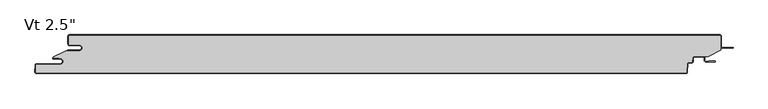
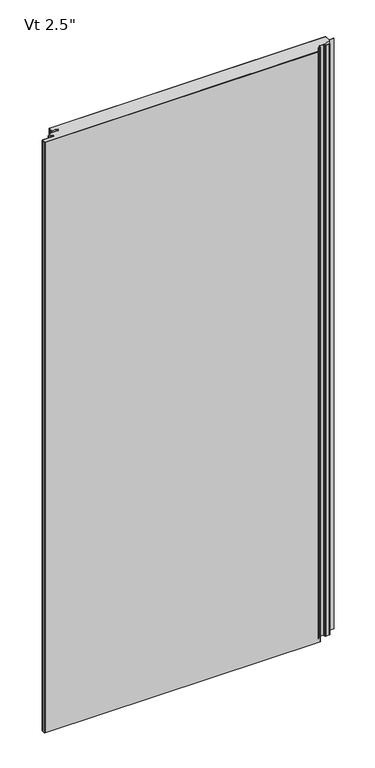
"""IFC4 building model written with IfcOpenShell, lengths in millimetres: plate geometry."""

import ifcopenshell
import ifcopenshell.guid

model = None  # the IFC model being written
_history = None  # IfcOwnerHistory: only IFC2X3 demands one
_inside = {}  # id of a spatial element -> (the spatial element, [elements in it])
_under = {}  # id of a project, library or spatial element -> (it, [spatial elements below it])
_declared = {}  # id of a project -> (the project, [libraries it declares])
_typed = {}  # id of a type object -> (the type object, [elements of that type])
_made_of = {}  # id of a material, layer set ... -> (it, [elements and type objects made of it])


def new_model(schema):
    """Start an empty IFC model of exactly this schema.

    Asked for "IFC4X3", IfcOpenShell would pick the latest addendum, in which some entities
    have other attributes; the version numbers below select the first issue.
    IFC2X3 requires an IfcOwnerHistory on every rooted entity: one is made here for all.
    """
    global model, _history
    if schema == "IFC4X3":
        model = ifcopenshell.file(schema_version=(4, 3, 0, 0))
    else:
        model = ifcopenshell.file(schema=schema)
    _inside.clear()
    _under.clear()
    _declared.clear()
    _typed.clear()
    _made_of.clear()
    _history = None
    if model.schema == "IFC2X3":
        org = make("IfcOrganization", Name="unknown")
        user = make(
            "IfcPersonAndOrganization",
            ThePerson=make("IfcPerson", FamilyName="unknown"),
            TheOrganization=org,
        )
        app = make(
            "IfcApplication",
            ApplicationDeveloper=org,
            Version="unknown",
            ApplicationFullName="unknown",
            ApplicationIdentifier="unknown",
        )
        _history = make(
            "IfcOwnerHistory",
            OwningUser=user,
            OwningApplication=app,
            ChangeAction="ADDED",
            CreationDate=0,
        )
    return model


def make(cls, **values):
    """One entity of the class cls with the attributes given. An attribute that is None is left unset."""
    return model.create_entity(
        cls, **{name: value for name, value in values.items() if value is not None}
    )


def rooted(cls, **values):
    """An entity with a GlobalId (a new one), such as an element, a storey or a relation."""
    return make(cls, GlobalId=ifcopenshell.guid.new(), OwnerHistory=_history, **values)


def si_unit(unit_type, name, prefix=None):
    """IfcSIUnit, for example si_unit("LENGTHUNIT", "METRE", prefix="MILLI")."""
    return make("IfcSIUnit", UnitType=unit_type, Prefix=prefix, Name=name)


def assignment(units):
    """IfcUnitAssignment: the units of a project."""
    return None if units is None else make("IfcUnitAssignment", Units=units)


def point(xyz):
    """IfcCartesianPoint."""
    return None if xyz is None else make("IfcCartesianPoint", Coordinates=xyz)


def direction(xyz):
    """IfcDirection."""
    return None if xyz is None else make("IfcDirection", DirectionRatios=xyz)


def frame(location, z_axis=None, x_axis=None):
    """IfcAxis2Placement3D, a coordinate frame: its origin and axes. An axis left out is left unset."""
    return make(
        "IfcAxis2Placement3D",
        Location=point(location),
        Axis=direction(z_axis),
        RefDirection=direction(x_axis),
    )


def frame_2d(location, x_axis=None):
    """IfcAxis2Placement2D, a coordinate frame in the plane: its origin and x axis."""
    return make(
        "IfcAxis2Placement2D", Location=point(location), RefDirection=direction(x_axis)
    )


def origin():
    """The frame at (0, 0, 0) with its axes left unset."""
    return frame((0.0, 0.0, 0.0))


def origin_with_axes():
    """The frame at (0, 0, 0) with the z axis (0, 0, 1) and the x axis (1, 0, 0) written out."""
    return frame((0.0, 0.0, 0.0), z_axis=(0.0, 0.0, 1.0), x_axis=(1.0, 0.0, 0.0))


def place(relative_to, where):
    """IfcLocalPlacement: puts the frame where relative to a parent placement (None: the world)."""
    return make(
        "IfcLocalPlacement", PlacementRelTo=relative_to, RelativePlacement=where
    )


def context(
    kind, dimensions, precision=None, world=None, true_north=None, identifier=None
):
    """IfcGeometricRepresentationContext, for example the 3D "Model" context."""
    return make(
        "IfcGeometricRepresentationContext",
        ContextIdentifier=identifier,
        ContextType=kind,
        CoordinateSpaceDimension=dimensions,
        Precision=precision,
        WorldCoordinateSystem=world,
        TrueNorth=true_north,
    )


def project(units=None, contexts=None):
    """IfcProject with its units and contexts."""
    return rooted(
        "IfcProject",
        Name="project",
        RepresentationContexts=contexts,
        UnitsInContext=assignment(units),
    )


def spatial(cls, under=None, at=None, **own):
    """A site, building, storey or space (cls), placed at a placement, below another one or the project."""
    s = rooted(cls, ObjectPlacement=at, **own)
    if under is not None:
        _under.setdefault(under.id(), (under, []))[1].append(s)
    return s


def polyline(points):
    """IfcPolyline through the points."""
    return make("IfcPolyline", Points=[point(p) for p in points])


def circle_curve(where, radius):
    """IfcCircle in the frame where."""
    return make("IfcCircle", Position=where, Radius=radius)


def ellipse_curve(where, semi_axis1, semi_axis2):
    """IfcEllipse in the frame where."""
    return make(
        "IfcEllipse", Position=where, SemiAxis1=semi_axis1, SemiAxis2=semi_axis2
    )


def trimmed(basis, trim1, trim2, sense, master):
    """IfcTrimmedCurve: the piece of a basis curve between two trims."""
    return make(
        "IfcTrimmedCurve",
        BasisCurve=basis,
        Trim1=trim1,
        Trim2=trim2,
        SenseAgreement=sense,
        MasterRepresentation=master,
    )


def segment(curve, same_sense, transition):
    """IfcCompositeCurveSegment."""
    return make(
        "IfcCompositeCurveSegment",
        Transition=transition,
        SameSense=same_sense,
        ParentCurve=curve,
    )


def composite_curve(segments, self_intersect=None):
    """IfcCompositeCurve: segments joined end to end."""
    return make("IfcCompositeCurve", Segments=segments, SelfIntersect=self_intersect)


def outline(outer, holes=None, kind="AREA"):
    """IfcArbitraryClosedProfileDef: a profile drawn as a closed curve; with holes, ...WithVoids."""
    if holes is None:
        return make("IfcArbitraryClosedProfileDef", ProfileType=kind, OuterCurve=outer)
    return make(
        "IfcArbitraryProfileDefWithVoids",
        ProfileType=kind,
        OuterCurve=outer,
        InnerCurves=holes,
    )


def extrude(swept, where, along, depth):
    """IfcExtrudedAreaSolid: the profile swept, set in the frame where, extruded along a direction by depth."""
    return make(
        "IfcExtrudedAreaSolid",
        SweptArea=swept,
        Position=where,
        ExtrudedDirection=direction(along),
        Depth=depth,
    )


def shape(context_of_items, identifier, shape_type, items):
    """IfcShapeRepresentation: the items that make up one representation, for example the "Body"."""
    return make(
        "IfcShapeRepresentation",
        ContextOfItems=context_of_items,
        RepresentationIdentifier=identifier,
        RepresentationType=shape_type,
        Items=items,
    )


def source(mapping_origin, context_of_items, identifier, shape_type, items):
    """IfcRepresentationMap: a shape defined once, which mapped items show again and again."""
    return make(
        "IfcRepresentationMap",
        MappingOrigin=mapping_origin,
        MappedRepresentation=shape(context_of_items, identifier, shape_type, items),
    )


def transform(
    local_origin,
    x_axis=None,
    y_axis=None,
    z_axis=None,
    scale=None,
    scale2=None,
    scale3=None,
    uniform=True,
):
    """IfcCartesianTransformationOperator3D, or its non-uniform kind. x_axis, y_axis, z_axis: its Axis1, 2, 3."""
    if uniform:
        return make(
            "IfcCartesianTransformationOperator3D",
            Axis1=direction(x_axis),
            Axis2=direction(y_axis),
            LocalOrigin=point(local_origin),
            Scale=scale,
            Axis3=direction(z_axis),
        )
    return make(
        "IfcCartesianTransformationOperator3DnonUniform",
        Axis1=direction(x_axis),
        Axis2=direction(y_axis),
        LocalOrigin=point(local_origin),
        Scale=scale,
        Axis3=direction(z_axis),
        Scale2=scale2,
        Scale3=scale3,
    )


def mapped(mapping_source, mapping_target):
    """IfcMappedItem: shows the shape of a source again, moved by a transform."""
    return make(
        "IfcMappedItem", MappingSource=mapping_source, MappingTarget=mapping_target
    )


def made_of(thing, what):
    """Note that an element or type object is made of a material, layer set ...; save() writes the relation."""
    if what is not None:
        _made_of.setdefault(what.id(), (what, []))[1].append(thing)
    return thing


def element(
    cls,
    number,
    at=None,
    inside=None,
    cuts=None,
    type_object=None,
    material=None,
    context=None,
    identifier="Body",
    shape_type=None,
    held_by="IfcProductDefinitionShape",
    body=None,
    shapes=None,
    **own,
):
    """One element of the class cls, such as IfcWall. Its Tag is "e" and its number.

    at: its placement. inside: the storey or other place that contains it. cuts: it is an
    opening in that element (IfcRelVoidsElement). A single representation is given by context,
    identifier, shape_type and body (its items); several are given by shapes. held_by: the class
    of the entity that holds the representations. save() writes the other relations.
    """
    e = rooted(cls, Tag="e%d" % number, ObjectPlacement=at, **own)
    if body is not None:
        shapes = [shape(context, identifier, shape_type, body)]
    if shapes is not None:
        e.Representation = make(held_by, Representations=shapes)
    if inside is not None:
        _inside.setdefault(inside.id(), (inside, []))[1].append(e)
    if cuts is not None:
        rooted(
            "IfcRelVoidsElement", RelatingBuildingElement=cuts, RelatedOpeningElement=e
        )
    if type_object is not None:
        _typed.setdefault(type_object.id(), (type_object, []))[1].append(e)
    return made_of(e, material)


def aggregate(whole, parts):
    """IfcRelAggregates: a whole, such as a stair, and the parts it consists of."""
    return rooted("IfcRelAggregates", RelatingObject=whole, RelatedObjects=parts)


def save(model, path):
    """Write the relations noted so far, then the file.

    IfcRelAggregates (storeys below a building ...), IfcRelContainedInSpatialStructure (elements
    in a storey), IfcRelDefinesByType, IfcRelAssociatesMaterial and IfcRelDeclares: one each for
    every whole, place, type object, material and project.
    """
    for whole, parts in _under.values():
        aggregate(whole, parts)
    for where, things in _inside.values():
        rooted(
            "IfcRelContainedInSpatialStructure",
            RelatedElements=things,
            RelatingStructure=where,
        )
    for kind, things in _typed.values():
        rooted("IfcRelDefinesByType", RelatedObjects=things, RelatingType=kind)
    for what, things in _made_of.values():
        rooted("IfcRelAssociatesMaterial", RelatedObjects=things, RelatingMaterial=what)
    for by, libraries in _declared.values():
        rooted("IfcRelDeclares", RelatingContext=by, RelatedDefinitions=libraries)
    model.write(path)


def plane_surface(at):
    """IfcPlane: the flat surface through the origin of the frame at, square to its z axis."""
    return make("IfcPlane", Position=at)


def cylinder_surface(at, radius):
    """IfcCylindricalSurface: all points at the distance radius from the z axis of the frame at."""
    return make("IfcCylindricalSurface", Position=at, Radius=radius)


def revolved_surface(curve, axis_point, axis_direction):
    """IfcSurfaceOfRevolution: the curve turned about the line through axis_point along axis_direction."""
    return make(
        "IfcSurfaceOfRevolution",
        SweptCurve=make("IfcArbitraryOpenProfileDef", ProfileType="CURVE", Curve=curve),
        AxisPosition=make("IfcAxis1Placement", Location=point(axis_point), Axis=direction(axis_direction)),
    )


def extruded_surface(curve, direction_of_extrusion, depth):
    """IfcSurfaceOfLinearExtrusion: the curve pushed along a direction by depth."""
    return make(
        "IfcSurfaceOfLinearExtrusion",
        SweptCurve=make("IfcArbitraryOpenProfileDef", ProfileType="CURVE", Curve=curve),
        ExtrudedDirection=direction(direction_of_extrusion),
        Depth=depth,
    )


def advanced_brep(points, edges, surfaces, faces):
    """IfcAdvancedBrep: a solid bounded by faces that lie on surfaces and meet in shared edges.

    An edge is (start, end): straight between two places in points (the first is 0);
    or (start, end, curve); or (start, end, curve, False) where it runs against its curve.
    A face is (place in surfaces, loops), or (place, loops, False) where it looks against
    its surface's normal. A loop lists edges by number (the first is 1), with a minus sign
    where the edge is run from its end to its start. The first loop is the outer one.
    """
    corners = [point(p) for p in points]
    vertices = [make("IfcVertexPoint", VertexGeometry=c) for c in corners]
    made = []
    for start, end, *more in edges:
        made.append(
            make(
                "IfcEdgeCurve",
                EdgeStart=vertices[start],
                EdgeEnd=vertices[end],
                EdgeGeometry=more[0] if more else make("IfcPolyline", Points=[corners[start], corners[end]]),
                SameSense=more[1] if len(more) > 1 else True,
            )
        )
    hull = []
    for where, loops, *sense in faces:
        bounds = []
        for j, loop in enumerate(loops):
            ring = [make("IfcOrientedEdge", EdgeElement=made[abs(k) - 1], Orientation=k > 0) for k in loop]
            bounds.append(
                make(
                    "IfcFaceOuterBound" if j == 0 else "IfcFaceBound",
                    Bound=make("IfcEdgeLoop", EdgeList=ring),
                    Orientation=True,
                )
            )
        hull.append(make("IfcAdvancedFace", Bounds=bounds, FaceSurface=surfaces[where], SameSense=sense[0] if sense else True))
    return make("IfcAdvancedBrep", Outer=make("IfcClosedShell", CfsFaces=hull))


def plate_c49927b6(model_context):
    return source(origin(), model_context, "Body", "SolidModel", [
        extrude(outline(composite_curve([segment(polyline([(-514.35625, -16.4625), (-530.23125, -16.4625)]), True, "CONTINUOUS"), segment(trimmed(circle_curve(frame_2d((-530.23125, -15.08125)), 1.38125), [point((-530.23125, -16.4625))], [point((-531.6125, -15.08125))], False, "CARTESIAN"), True, "CONTINUOUS"), segment(polyline([(-531.6125, -15.08125), (-531.6125, -2.38125)]), True, "CONTINUOUS"), segment(trimmed(circle_curve(frame_2d((-530.23125, -2.38125)), 1.38125), [point((-531.6125, -2.38125))], [point((-530.23125, -1.0))], False, "CARTESIAN"), True, "CONTINUOUS"), segment(polyline([(-530.23125, -1.0), (530.21875, -1.0)]), True, "CONTINUOUS"), segment(trimmed(circle_curve(frame_2d((530.21875, -2.38125)), 1.38125), [point((530.21875, -1.0))], [point((531.6, -2.38125))], False, "CARTESIAN"), True, "CONTINUOUS"), segment(polyline([(531.6, -2.38125), (531.6, -24.9057308), (510.7830434, -35.5125), (488.3415783, -35.5125)]), True, "CONTINUOUS"), segment(trimmed(circle_curve(frame_2d((488.3415783, -38.1)), 2.5875), [point((488.3415783, -35.5125))], [point((485.7576244, -37.9645807))], True, "CARTESIAN"), True, "CONTINUOUS"), segment(polyline([(485.7576244, -37.9645807), (485.4555481, -43.728539)]), True, "CONTINUOUS"), segment(trimmed(circle_curve(frame_2d((484.0761911, -43.65625)), 1.38125), [point((485.4555481, -43.728539))], [point((484.0761911, -45.0375))], False, "CARTESIAN"), True, "CONTINUOUS"), segment(polyline([(484.0761911, -45.0375), (479.4448847, -45.0375)]), True, "CONTINUOUS"), segment(trimmed(circle_curve(frame_2d((479.4448847, -47.625)), 2.5875), [point((479.4448847, -45.0375))], [point((476.8609307, -47.4895807))], True, "CARTESIAN"), True, "CONTINUOUS"), segment(polyline([(476.8609307, -47.4895807), (476.1428677, -61.191039)]), True, "CONTINUOUS"), segment(trimmed(circle_curve(frame_2d((474.7635107, -61.11875)), 1.38125), [point((476.1428677, -61.191039))], [point((474.7635107, -62.5))], False, "CARTESIAN"), True, "CONTINUOUS"), segment(polyline([(474.7635107, -62.5), (-584.0924535, -62.5)]), True, "CONTINUOUS"), segment(trimmed(circle_curve(frame_2d((-584.0924535, -61.11875)), 1.38125), [point((-584.0924535, -62.5))], [point((-585.4718106, -61.046461))], False, "CARTESIAN"), True, "CONTINUOUS"), segment(polyline([(-585.4718106, -61.046461), (-584.8894291, -49.933961)]), True, "CONTINUOUS"), segment(trimmed(circle_curve(frame_2d((-583.5100721, -50.00625)), 1.38125), [point((-584.8894291, -49.933961))], [point((-583.5100721, -48.625))], False, "CARTESIAN"), True, "CONTINUOUS"), segment(polyline([(-583.5100721, -48.625), (-545.3267674, -48.625)]), True, "CONTINUOUS"), segment(trimmed(circle_curve(frame_2d((-545.3267674, -43.65625)), 4.96875), [point((-545.3267674, -48.625))], [point((-545.3267674, -38.6875))], True, "CARTESIAN"), True, "CONTINUOUS"), segment(polyline([(-545.3267674, -38.6875), (-546.9142674, -38.89375), (-546.9142674, -38.1), (-556.425, -38.1), (-556.425, -36.5326309), (-536.5385922, -26.4), (-514.35625, -26.4)]), True, "CONTINUOUS"), segment(trimmed(circle_curve(frame_2d((-514.35625, -21.43125)), 4.96875), [point((-514.35625, -26.4))], [point((-514.35625, -16.4625))], True, "CARTESIAN"), True, "CONTINUOUS")], self_intersect=False)), origin_with_axes(), (0.0, 0.0, 1.0), 2400.0),
        extrude(outline(composite_curve([segment(polyline([(-532.6125, -25.4), (-514.35625, -25.4)]), True, "CONTINUOUS"), segment(trimmed(circle_curve(frame_2d((-514.35625, -21.43125)), 3.96875), [point((-514.35625, -25.4))], [point((-514.35625, -17.4625))], True, "CARTESIAN"), True, "CONTINUOUS"), segment(polyline([(-514.35625, -17.4625), (-530.23125, -17.4625)]), True, "CONTINUOUS"), segment(trimmed(circle_curve(frame_2d((-530.23125, -15.08125)), 2.38125), [point((-530.23125, -17.4625))], [point((-532.6125, -15.08125))], False, "CARTESIAN"), True, "CONTINUOUS"), segment(polyline([(-532.6125, -15.08125), (-532.6125, -2.38125)]), True, "CONTINUOUS"), segment(trimmed(circle_curve(frame_2d((-530.23125, -2.38125)), 2.38125), [point((-532.6125, -2.38125))], [point((-530.23125, 0.0))], False, "CARTESIAN"), True, "CONTINUOUS"), segment(polyline([(-530.23125, 0.0), (530.21875, 0.0)]), True, "CONTINUOUS"), segment(trimmed(circle_curve(frame_2d((530.21875, -2.38125)), 2.38125), [point((530.21875, 0.0))], [point((532.6, -2.38125))], False, "CARTESIAN"), True, "CONTINUOUS"), segment(polyline([(532.6, -2.38125), (532.6, -19.446875)]), True, "CONTINUOUS"), segment(trimmed(circle_curve(frame_2d((534.1875, -19.446875)), 1.5875), [point((532.6, -19.446875))], [point((534.1875, -21.034375))], True, "CARTESIAN"), True, "CONTINUOUS"), segment(polyline([(534.1875, -21.034375), (551.65, -21.034375), (551.65, -22.034375), (534.1875, -22.034375)]), True, "CONTINUOUS"), segment(trimmed(circle_curve(frame_2d((534.1875, -19.446875)), 2.5875), [point((534.1875, -22.034375))], [point((531.6, -19.446875))], False, "CARTESIAN"), True, "CONTINUOUS"), segment(polyline([(531.6, -19.446875), (531.6, -2.38125)]), True, "CONTINUOUS"), segment(trimmed(circle_curve(frame_2d((530.21875, -2.38125)), 1.38125), [point((531.6, -2.38125))], [point((530.21875, -1.0))], True, "CARTESIAN"), True, "CONTINUOUS"), segment(polyline([(530.21875, -1.0), (-530.23125, -1.0)]), True, "CONTINUOUS"), segment(trimmed(circle_curve(frame_2d((-530.23125, -2.38125)), 1.38125), [point((-530.23125, -1.0))], [point((-531.6125, -2.38125))], True, "CARTESIAN"), True, "CONTINUOUS"), segment(polyline([(-531.6125, -2.38125), (-531.6125, -15.08125)]), True, "CONTINUOUS"), segment(trimmed(circle_curve(frame_2d((-530.23125, -15.08125)), 1.38125), [point((-531.6125, -15.08125))], [point((-530.23125, -16.4625))], True, "CARTESIAN"), True, "CONTINUOUS"), segment(polyline([(-530.23125, -16.4625), (-514.35625, -16.4625)]), True, "CONTINUOUS"), segment(trimmed(circle_curve(frame_2d((-514.35625, -21.43125)), 4.96875), [point((-514.35625, -16.4625))], [point((-514.35625, -26.4))], False, "CARTESIAN"), True, "CONTINUOUS"), segment(polyline([(-514.35625, -26.4), (-532.6125, -26.4), (-532.6125, -25.4)]), True, "CONTINUOUS")], self_intersect=False)), origin_with_axes(), (0.0, 0.0, 1.0), 2400.0),
        advanced_brep(
        [(-556.6377049, -38.1, 2400.0), (-556.6377049, -39.6875, 2400.0), (-545.3267674, -39.6875, 2400.0), (-545.3267674, -47.625, 2400.0), (-583.5100721, -47.625, 2400.0), (-585.8880586, -49.881625, 2400.0), (-586.4704401, -60.994125, 2400.0), (-584.0924535, -63.5, 2400.0), (474.7635107, -63.5, 2400.0), (477.1414973, -61.243375, 2400.0), (477.8595603, -47.5419167, 2400.0), (479.4448847, -46.0375, 2400.0), (484.0761911, -46.0375, 2400.0), (486.4541776, -43.780875, 2400.0), (486.7562539, -38.0169167, 2400.0), (488.3415783, -36.5125, 2400.0), (503.2169826, -36.5125, 2400.0), (504.8044826, -38.1, 2400.0), (504.8044826, -42.2671875, 2400.0), (507.1857326, -44.6484375, 2400.0), (521.6773532, -44.6484375, 2400.0), (521.6773532, -42.8546875, 2400.0), (511.9482326, -42.8546875, 2400.0), (511.9482326, -43.6484375, 2400.0), (507.1857326, -43.6484375, 2400.0), (505.8044826, -42.2671875, 2400.0), (505.8044826, -38.1, 2400.0), (503.2169826, -35.5125, 2400.0), (488.3415783, -35.5125, 2400.0), (485.7576244, -37.9645807, 2400.0), (485.4555481, -43.728539, 2400.0), (484.0761911, -45.0375, 2400.0), (479.4448847, -45.0375, 2400.0), (476.8609307, -47.4895807, 2400.0), (476.1428677, -61.191039, 2400.0), (474.7635107, -62.5, 2400.0), (-584.0924535, -62.5, 2400.0), (-585.4718106, -61.046461, 2400.0), (-584.8894291, -49.933961, 2400.0), (-583.5100721, -48.625, 2400.0), (-545.3267674, -48.625, 2400.0), (-545.3267674, -38.6875, 2400.0), (-546.9142674, -38.89375, 2400.0), (-546.9142674, -38.1, 2400.0), (-556.6377049, -38.1, 0.0), (-546.9142674, -38.1, 0.0), (-546.9142674, -38.89375, 0.0), (-545.3267674, -38.6875, 0.0), (-545.3267674, -48.625, 0.0), (-583.5100721, -48.625, 0.0), (-584.8894291, -49.933961, 0.0), (-585.4718106, -61.046461, 0.0), (-584.0924535, -62.5, 0.0), (474.7635107, -62.5, 0.0), (476.1428677, -61.191039, 0.0), (476.8609307, -47.4895807, 0.0), (479.4448847, -45.0375, 0.0), (484.0761911, -45.0375, 0.0), (485.4555481, -43.728539, 0.0), (485.7576244, -37.9645807, 0.0), (488.3415783, -35.5125, 0.0), (503.2169826, -35.5125, 0.0), (505.8044826, -38.1, 0.0), (505.8044826, -42.2671875, 0.0), (507.1857326, -43.6484375, 0.0), (511.9482326, -43.6484375, 0.0), (511.9482326, -42.8546875, 0.0), (521.6773532, -42.8546875, 0.0), (521.6773532, -44.6484375, 0.0), (507.1857326, -44.6484375, 0.0), (504.8044826, -42.2671875, 0.0), (504.8044826, -38.1, 0.0), (503.2169826, -36.5125, 0.0), (488.3415783, -36.5125, 0.0), (486.7562539, -38.0169167, 0.0), (486.4541776, -43.780875, 0.0), (484.0761911, -46.0375, 0.0), (479.4448847, -46.0375, 0.0), (477.8595603, -47.5419167, 0.0), (477.1414973, -61.243375, 0.0), (474.7635107, -63.5, 0.0), (-584.0924535, -63.5, 0.0), (-586.4704401, -60.994125, 0.0), (-585.8880586, -49.881625, 0.0), (-583.5100721, -47.625, 0.0), (-545.3267674, -47.625, 0.0), (-545.3267674, -39.6875, 0.0), (-556.6377049, -39.6875, 0.0)],
        [
            (0, 1, circle_curve(frame((-556.6377049, -38.89375, 2400.0), z_axis=(0.0, 0.0, 1.0), x_axis=(-1.0, 0.0, 0.0)), 0.79375)),
            (1, 2),
            (2, 3, circle_curve(frame((-545.3267674, -43.65625, 2400.0), z_axis=(0.0, 0.0, -1.0), x_axis=(-1.0, 0.0, 0.0)), 3.96875)),
            (3, 4),
            (4, 5, circle_curve(frame((-583.5100721, -50.00625, 2400.0), z_axis=(0.0, 0.0, 1.0), x_axis=(-1.0, 0.0, 0.0)), 2.38125)),
            (5, 6),
            (6, 7, circle_curve(frame((-584.0924535, -61.11875, 2400.0), z_axis=(0.0, 0.0, 1.0), x_axis=(-1.0, 0.0, 0.0)), 2.38125)),
            (7, 8),
            (8, 9, circle_curve(frame((474.7635107, -61.11875, 2400.0), z_axis=(0.0, 0.0, 1.0), x_axis=(-1.0, 0.0, 0.0)), 2.38125)),
            (9, 10),
            (10, 11, circle_curve(frame((479.4448847, -47.625, 2400.0), z_axis=(0.0, 0.0, -1.0), x_axis=(-1.0, 0.0, 0.0)), 1.5875)),
            (11, 12),
            (12, 13, circle_curve(frame((484.0761911, -43.65625, 2400.0), z_axis=(0.0, 0.0, 1.0), x_axis=(-1.0, 0.0, 0.0)), 2.38125)),
            (13, 14),
            (14, 15, circle_curve(frame((488.3415783, -38.1, 2400.0), z_axis=(0.0, 0.0, -1.0), x_axis=(-1.0, 0.0, 0.0)), 1.5875)),
            (15, 16),
            (16, 17, circle_curve(frame((503.2169826, -38.1, 2400.0), z_axis=(0.0, 0.0, -1.0), x_axis=(-1.0, 0.0, 0.0)), 1.5875)),
            (17, 18),
            (18, 19, circle_curve(frame((507.1857326, -42.2671875, 2400.0), z_axis=(0.0, 0.0, 1.0), x_axis=(-1.0, 0.0, 0.0)), 2.38125)),
            (19, 20),
            (20, 21, ellipse_curve(frame((521.6773532, -43.7515625, 2400.0), z_axis=(0.0, 0.0, 1.0), x_axis=(0.0, 1.0, 0.0)), 0.896875, 0.7852275)),
            (21, 22),
            (22, 23),
            (23, 24),
            (24, 25, circle_curve(frame((507.1857326, -42.2671875, 2400.0), z_axis=(0.0, 0.0, -1.0), x_axis=(-1.0, 0.0, 0.0)), 1.38125)),
            (25, 26),
            (26, 27, circle_curve(frame((503.2169826, -38.1, 2400.0), z_axis=(0.0, 0.0, 1.0), x_axis=(-1.0, 0.0, 0.0)), 2.5875)),
            (27, 28),
            (28, 29, circle_curve(frame((488.3415783, -38.1, 2400.0), z_axis=(0.0, 0.0, 1.0), x_axis=(-1.0, 0.0, 0.0)), 2.5875)),
            (29, 30),
            (30, 31, circle_curve(frame((484.0761911, -43.65625, 2400.0), z_axis=(0.0, 0.0, -1.0), x_axis=(-1.0, 0.0, 0.0)), 1.38125)),
            (31, 32),
            (32, 33, circle_curve(frame((479.4448847, -47.625, 2400.0), z_axis=(0.0, 0.0, 1.0), x_axis=(-1.0, 0.0, 0.0)), 2.5875)),
            (33, 34),
            (34, 35, circle_curve(frame((474.7635107, -61.11875, 2400.0), z_axis=(0.0, 0.0, -1.0), x_axis=(-1.0, 0.0, 0.0)), 1.38125)),
            (35, 36),
            (36, 37, circle_curve(frame((-584.0924535, -61.11875, 2400.0), z_axis=(0.0, 0.0, -1.0), x_axis=(-1.0, 0.0, 0.0)), 1.38125)),
            (37, 38),
            (38, 39, circle_curve(frame((-583.5100721, -50.00625, 2400.0), z_axis=(0.0, 0.0, -1.0), x_axis=(-1.0, 0.0, 0.0)), 1.38125)),
            (39, 40),
            (40, 41, circle_curve(frame((-545.3267674, -43.65625, 2400.0), z_axis=(0.0, 0.0, 1.0), x_axis=(-1.0, 0.0, 0.0)), 4.96875)),
            (41, 42),
            (42, 43),
            (43, 0),
            (44, 45),
            (45, 46),
            (46, 47),
            (47, 48, circle_curve(frame((-545.3267674, -43.65625, 0.0), z_axis=(0.0, 0.0, -1.0), x_axis=(-1.0, 0.0, 0.0)), 4.96875)),
            (48, 49),
            (49, 50, circle_curve(frame((-583.5100721, -50.00625, 0.0), z_axis=(0.0, 0.0, 1.0), x_axis=(-1.0, 0.0, 0.0)), 1.38125)),
            (50, 51),
            (51, 52, circle_curve(frame((-584.0924535, -61.11875, 0.0), z_axis=(0.0, 0.0, 1.0), x_axis=(-1.0, 0.0, 0.0)), 1.38125)),
            (52, 53),
            (53, 54, circle_curve(frame((474.7635107, -61.11875, 0.0), z_axis=(0.0, 0.0, 1.0), x_axis=(-1.0, 0.0, 0.0)), 1.38125)),
            (54, 55),
            (55, 56, circle_curve(frame((479.4448847, -47.625, 0.0), z_axis=(0.0, 0.0, -1.0), x_axis=(-1.0, 0.0, 0.0)), 2.5875)),
            (56, 57),
            (57, 58, circle_curve(frame((484.0761911, -43.65625, 0.0), z_axis=(0.0, 0.0, 1.0), x_axis=(-1.0, 0.0, 0.0)), 1.38125)),
            (58, 59),
            (59, 60, circle_curve(frame((488.3415783, -38.1, 0.0), z_axis=(0.0, 0.0, -1.0), x_axis=(-1.0, 0.0, 0.0)), 2.5875)),
            (60, 61),
            (61, 62, circle_curve(frame((503.2169826, -38.1, 0.0), z_axis=(0.0, 0.0, -1.0), x_axis=(-1.0, 0.0, 0.0)), 2.5875)),
            (62, 63),
            (63, 64, circle_curve(frame((507.1857326, -42.2671875, 0.0), z_axis=(0.0, 0.0, 1.0), x_axis=(-1.0, 0.0, 0.0)), 1.38125)),
            (64, 65),
            (65, 66),
            (66, 67),
            (67, 68, ellipse_curve(frame((521.6773532, -43.7515625, 0.0), z_axis=(0.0, 0.0, -1.0), x_axis=(0.0, 1.0, 0.0)), 0.896875, 0.7852275)),
            (68, 69),
            (69, 70, circle_curve(frame((507.1857326, -42.2671875, 0.0), z_axis=(0.0, 0.0, -1.0), x_axis=(-1.0, 0.0, 0.0)), 2.38125)),
            (70, 71),
            (71, 72, circle_curve(frame((503.2169826, -38.1, 0.0), z_axis=(0.0, 0.0, 1.0), x_axis=(-1.0, 0.0, 0.0)), 1.5875)),
            (72, 73),
            (73, 74, circle_curve(frame((488.3415783, -38.1, 0.0), z_axis=(0.0, 0.0, 1.0), x_axis=(-1.0, 0.0, 0.0)), 1.5875)),
            (74, 75),
            (75, 76, circle_curve(frame((484.0761911, -43.65625, 0.0), z_axis=(0.0, 0.0, -1.0), x_axis=(-1.0, 0.0, 0.0)), 2.38125)),
            (76, 77),
            (77, 78, circle_curve(frame((479.4448847, -47.625, 0.0), z_axis=(0.0, 0.0, 1.0), x_axis=(-1.0, 0.0, 0.0)), 1.5875)),
            (78, 79),
            (79, 80, circle_curve(frame((474.7635107, -61.11875, 0.0), z_axis=(0.0, 0.0, -1.0), x_axis=(-1.0, 0.0, 0.0)), 2.38125)),
            (80, 81),
            (81, 82, circle_curve(frame((-584.0924535, -61.11875, 0.0), z_axis=(0.0, 0.0, -1.0), x_axis=(-1.0, 0.0, 0.0)), 2.38125)),
            (82, 83),
            (83, 84, circle_curve(frame((-583.5100721, -50.00625, 0.0), z_axis=(0.0, 0.0, -1.0), x_axis=(-1.0, 0.0, 0.0)), 2.38125)),
            (84, 85),
            (85, 86, circle_curve(frame((-545.3267674, -43.65625, 0.0), z_axis=(0.0, 0.0, 1.0), x_axis=(-1.0, 0.0, 0.0)), 3.96875)),
            (86, 87),
            (87, 44, circle_curve(frame((-556.6377049, -38.89375, 0.0), z_axis=(0.0, 0.0, -1.0), x_axis=(-1.0, 0.0, 0.0)), 0.79375)),
            (43, 45),
            (44, 0),
            (87, 1),
            (86, 2),
            (85, 3),
            (84, 4),
            (83, 5),
            (82, 6),
            (81, 7),
            (80, 8),
            (79, 9),
            (78, 10),
            (77, 11),
            (76, 12),
            (75, 13),
            (74, 14),
            (73, 15),
            (38, 50),
            (49, 39),
            (37, 51),
            (36, 52),
            (35, 53),
            (34, 54),
            (33, 55),
            (32, 56),
            (31, 57),
            (30, 58),
            (29, 59),
            (28, 60),
            (23, 65),
            (64, 24),
            (63, 25),
            (62, 26),
            (72, 16),
            (71, 17),
            (70, 18),
            (69, 19),
            (68, 20),
            (27, 61),
            (48, 40),
            (47, 41),
            (42, 46),
            (22, 66),
            (21, 67),
        ],
        [
            plane_surface(frame((-0.00625, -63.5, 2400.0), z_axis=(0.0, 0.0, 1.0), x_axis=(0.0, -1.0, 0.0))),
            plane_surface(frame((-0.00625, -63.5, 0.0), z_axis=(0.0, 0.0, -1.0), x_axis=(0.0, -1.0, 0.0))),
            plane_surface(frame((-556.6377049, -38.1, 2400.0), z_axis=(0.0, 1.0, 0.0), x_axis=(0.0, 0.0, -1.0))),
            cylinder_surface(frame((-556.6377049, -38.89375, 2400.0), z_axis=(0.0, 0.0, 1.0), x_axis=(-1.0, 0.0, 0.0)), 0.79375),
            plane_surface(frame((-545.3267674, -39.6875, 2400.0), z_axis=(0.0, -1.0, 0.0), x_axis=(0.0, 0.0, -1.0))),
            revolved_surface(polyline([(-549.2955174, -43.65625, 0.0), (-549.2955174, -43.65625, 2400.0)]), (-545.3267674, -43.65625, 2400.0), (0.0, 0.0, -1.0)),
            plane_surface(frame((-583.5100721, -47.625, 2400.0), z_axis=(0.0, 1.0, 0.0), x_axis=(0.0, 0.0, -1.0))),
            cylinder_surface(frame((-583.5100721, -50.00625, 2400.0), z_axis=(0.0, 0.0, 1.0), x_axis=(-1.0, 0.0, 0.0)), 2.38125),
            plane_surface(frame((-586.4704401, -60.994125, 2400.0), z_axis=(-0.9986295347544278, 0.052335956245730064, 0.0), x_axis=(0.0, 0.0, -1.0))),
            cylinder_surface(frame((-584.0924535, -61.11875, 2400.0), z_axis=(0.0, 0.0, 1.0), x_axis=(-1.0, 0.0, 0.0)), 2.38125),
            plane_surface(frame((474.7635107, -63.5, 2400.0), z_axis=(0.0, -1.0, 0.0), x_axis=(0.0, 0.0, -1.0))),
            cylinder_surface(frame((474.7635107, -61.11875, 2400.0), z_axis=(0.0, 0.0, 1.0), x_axis=(-1.0, 0.0, 0.0)), 2.38125),
            plane_surface(frame((477.8595603, -47.5419167, 2400.0), z_axis=(0.9986295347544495, -0.05233595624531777, 0.0), x_axis=(0.0, 0.0, -1.0))),
            revolved_surface(polyline([(477.8573847, -47.625, 0.0), (477.8573847, -47.625, 2400.0)]), (479.4448847, -47.625, 2400.0), (0.0, 0.0, -1.0)),
            plane_surface(frame((484.0761911, -46.0375, 2400.0), z_axis=(0.0, -1.0, 0.0), x_axis=(0.0, 0.0, -1.0))),
            cylinder_surface(frame((484.0761911, -43.65625, 2400.0), z_axis=(0.0, 0.0, 1.0), x_axis=(-1.0, 0.0, 0.0)), 2.38125),
            plane_surface(frame((486.7562539, -38.0169167, 2400.0), z_axis=(0.9986295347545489, -0.05233595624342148, 0.0), x_axis=(0.0, 0.0, -1.0))),
            revolved_surface(polyline([(486.7540783, -38.1, 0.0), (486.7540783, -38.1, 2400.0)]), (488.3415783, -38.1, 2400.0), (0.0, 0.0, -1.0)),
            revolved_surface(polyline([(-584.8913221, -50.00625, 0.0), (-584.8913221, -50.00625, 2400.0)]), (-583.5100721, -50.00625, 2400.0), (0.0, 0.0, -1.0)),
            plane_surface(frame((-584.8894291, -49.933961, 2400.0), z_axis=(0.9986295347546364, -0.05233595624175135, 0.0), x_axis=(0.0, 0.0, -1.0))),
            revolved_surface(polyline([(-585.4737035, -61.11875, 0.0), (-585.4737035, -61.11875, 2400.0)]), (-584.0924535, -61.11875, 2400.0), (0.0, 0.0, -1.0)),
            plane_surface(frame((-584.0924535, -62.5, 2400.0), z_axis=(0.0, 1.0, 0.0), x_axis=(0.0, 0.0, -1.0))),
            revolved_surface(polyline([(473.38226069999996, -61.11875, 0.0), (473.38226069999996, -61.11875, 2400.0)]), (474.7635107, -61.11875, 2400.0), (0.0, 0.0, -1.0)),
            plane_surface(frame((476.1428677, -61.191039, 2400.0), z_axis=(-0.9986295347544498, 0.05233595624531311, 0.0), x_axis=(0.0, 0.0, -1.0))),
            cylinder_surface(frame((479.4448847, -47.625, 2400.0), z_axis=(0.0, 0.0, 1.0), x_axis=(-1.0, 0.0, 0.0)), 2.5875),
            plane_surface(frame((479.4448847, -45.0375, 2400.0), z_axis=(0.0, 1.0, 0.0), x_axis=(0.0, 0.0, -1.0))),
            revolved_surface(polyline([(482.6949411, -43.65625, 0.0), (482.6949411, -43.65625, 2400.0)]), (484.0761911, -43.65625, 2400.0), (0.0, 0.0, -1.0)),
            plane_surface(frame((485.4555481, -43.728539, 2400.0), z_axis=(-0.9986295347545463, 0.05233595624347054, 0.0), x_axis=(0.0, 0.0, -1.0))),
            cylinder_surface(frame((488.3415783, -38.1, 2400.0), z_axis=(0.0, 0.0, 1.0), x_axis=(-1.0, 0.0, 0.0)), 2.5875),
            plane_surface(frame((507.1857326, -43.6484375, 2400.0), z_axis=(0.0, 1.0, 0.0), x_axis=(0.0, 0.0, -1.0))),
            revolved_surface(polyline([(505.8044826, -42.2671875, 0.0), (505.8044826, -42.2671875, 2400.0)]), (507.1857326, -42.2671875, 2400.0), (0.0, 0.0, -1.0)),
            plane_surface(frame((505.8044826, -38.1, 2400.0), z_axis=(1.0, 0.0, 0.0), x_axis=(0.0, 0.0, -1.0))),
            plane_surface(frame((503.2169826, -36.5125, 2400.0), z_axis=(0.0, -1.0, 0.0), x_axis=(0.0, 0.0, -1.0))),
            revolved_surface(polyline([(501.6294826, -38.1, 0.0), (501.6294826, -38.1, 2400.0)]), (503.2169826, -38.1, 2400.0), (0.0, 0.0, -1.0)),
            plane_surface(frame((504.8044826, -42.2671875, 2400.0), z_axis=(-1.0, 0.0, 0.0), x_axis=(0.0, 0.0, -1.0))),
            cylinder_surface(frame((507.1857326, -42.2671875, 2400.0), z_axis=(0.0, 0.0, 1.0), x_axis=(-1.0, 0.0, 0.0)), 2.38125),
            plane_surface(frame((521.6773532, -44.6484375, 2400.0), z_axis=(0.0, -1.0, 0.0), x_axis=(0.0, 0.0, -1.0))),
            plane_surface(frame((488.3415783, -35.5125, 2400.0), z_axis=(0.0, 1.0, 0.0), x_axis=(0.0, 0.0, -1.0))),
            cylinder_surface(frame((503.2169826, -38.1, 2400.0), z_axis=(0.0, 0.0, 1.0), x_axis=(-1.0, 0.0, 0.0)), 2.5875),
            plane_surface(frame((-545.3267674, -48.625, 2400.0), z_axis=(0.0, -1.0, 0.0), x_axis=(0.0, 0.0, -1.0))),
            cylinder_surface(frame((-545.3267674, -43.65625, 2400.0), z_axis=(0.0, 0.0, 1.0), x_axis=(-1.0, 0.0, 0.0)), 4.96875),
            plane_surface(frame((-546.9142674, -38.1, 2400.0), z_axis=(1.0, 0.0, 0.0), x_axis=(0.0, 0.0, -1.0))),
            plane_surface(frame((-546.9142674, -38.89375, 2400.0), z_axis=(-0.128838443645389, 0.9916655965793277, 0.0), x_axis=(0.0, 0.0, -1.0))),
            plane_surface(frame((511.9482326, -43.6484375, 2400.0), z_axis=(-1.0, 0.0, 0.0), x_axis=(0.0, 0.0, -1.0))),
            plane_surface(frame((511.9482326, -42.8546875, 2400.0), z_axis=(0.0, 1.0, 0.0), x_axis=(0.0, 0.0, -1.0))),
            extruded_surface(trimmed(ellipse_curve(frame((521.6773532, -43.7515625, 2400.0), z_axis=(0.0, 0.0, -1.0), x_axis=(0.0, 1.0, 0.0)), 0.896875, 0.7852275), [point((521.6773532, -42.8546875, 2400.0))], [point((521.6773532, -44.6484375, 2400.0))], True, "CARTESIAN"), (0.0, 0.0, -2400.0), 2400.0),
        ],
        [
            (0, [[1, 2, 3, 4, 5, 6, 7, 8, 9, 10, 11, 12, 13, 14, 15, 16, 17, 18, 19, 20, 21, 22, 23, 24, 25, 26, 27, 28, 29, 30, 31, 32, 33, 34, 35, 36, 37, 38, 39, 40, 41, 42, 43, 44]]),
            (1, [[45, 46, 47, 48, 49, 50, 51, 52, 53, 54, 55, 56, 57, 58, 59, 60, 61, 62, 63, 64, 65, 66, 67, 68, 69, 70, 71, 72, 73, 74, 75, 76, 77, 78, 79, 80, 81, 82, 83, 84, 85, 86, 87, 88]]),
            (2, [[89, -45, 90, -44]]),
            (3, [[-90, -88, 91, -1]]),
            (4, [[-91, -87, 92, -2]]),
            (5, [[-92, -86, 93, -3]]),
            (6, [[-93, -85, 94, -4]]),
            (7, [[-94, -84, 95, -5]]),
            (8, [[-95, -83, 96, -6]]),
            (9, [[-96, -82, 97, -7]]),
            (10, [[-97, -81, 98, -8]]),
            (11, [[-98, -80, 99, -9]]),
            (12, [[-99, -79, 100, -10]]),
            (13, [[-100, -78, 101, -11]]),
            (14, [[-101, -77, 102, -12]]),
            (15, [[-102, -76, 103, -13]]),
            (16, [[-103, -75, 104, -14]]),
            (17, [[-104, -74, 105, -15]]),
            (18, [[106, -50, 107, -39]]),
            (19, [[108, -51, -106, -38]]),
            (20, [[109, -52, -108, -37]]),
            (21, [[110, -53, -109, -36]]),
            (22, [[111, -54, -110, -35]]),
            (23, [[112, -55, -111, -34]]),
            (24, [[113, -56, -112, -33]]),
            (25, [[114, -57, -113, -32]]),
            (26, [[115, -58, -114, -31]]),
            (27, [[116, -59, -115, -30]]),
            (28, [[117, -60, -116, -29]]),
            (29, [[118, -65, 119, -24]]),
            (30, [[-119, -64, 120, -25]]),
            (31, [[-120, -63, 121, -26]]),
            (32, [[-105, -73, 122, -16]]),
            (33, [[-122, -72, 123, -17]]),
            (34, [[-123, -71, 124, -18]]),
            (35, [[-124, -70, 125, -19]]),
            (36, [[-125, -69, 126, -20]]),
            (37, [[127, -61, -117, -28]]),
            (38, [[-121, -62, -127, -27]]),
            (39, [[-107, -49, 128, -40]]),
            (40, [[-128, -48, 129, -41]]),
            (41, [[130, -46, -89, -43]]),
            (42, [[-129, -47, -130, -42]]),
            (43, [[131, -66, -118, -23]]),
            (44, [[132, -67, -131, -22]]),
            (45, [[-126, -68, -132, -21]]),
        ],
    ),
    ])


if __name__ == "__main__":
    model = new_model("IFC4")
    model_context = context("Model", 3, world=origin())
    ifc_project = project(units=[si_unit("LENGTHUNIT", "METRE", prefix="MILLI")], contexts=[model_context])
    site = spatial("IfcSite", under=ifc_project)
    building = spatial("IfcBuilding", under=site)
    placement = place(None, origin())
    plate_shape = plate_c49927b6(model_context)
    element("IfcPlate", 1, ObjectType="KIP-42-DWTR-R19-CP-Vt-F : Vt 2.5\"", at=placement, inside=building, context=model_context, shape_type="MappedRepresentation", body=[
        mapped(plate_shape, transform((0.0, 0.0, 0.0), x_axis=(1.0, 0.0, 0.0), y_axis=(0.0, 1.0, 0.0), z_axis=(0.0, 0.0, 1.0))),
    ])
    save(model, "model.ifc")
